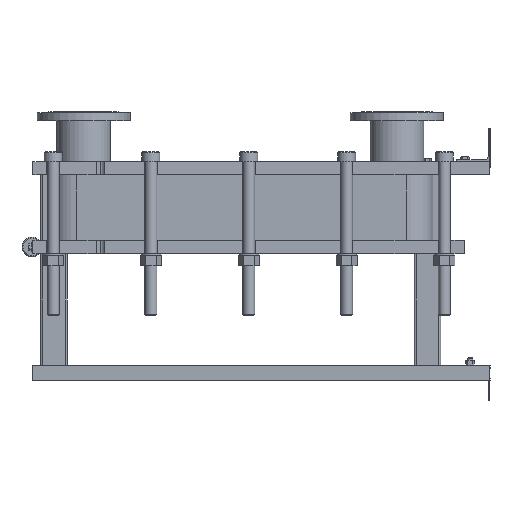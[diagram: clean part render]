
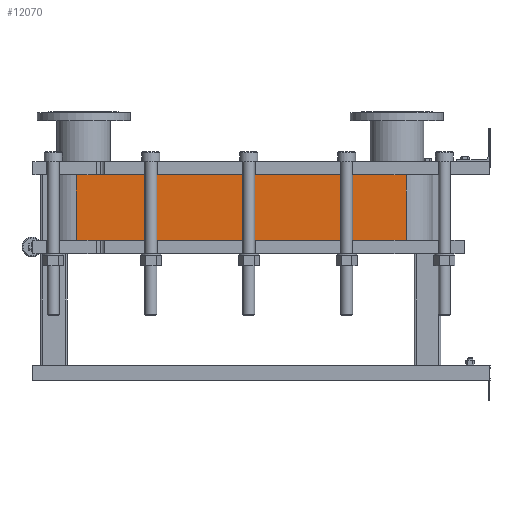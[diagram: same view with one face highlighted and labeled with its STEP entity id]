
A CAD part, left-side view. The second image highlights one B-rep face of the part: STEP entity #12070.
In plain terms, the highlighted planar face has unit normal (-1, 0, 0).
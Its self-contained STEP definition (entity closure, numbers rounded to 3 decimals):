
#1064=LINE('',#21140,#2164);
#1065=LINE('',#21144,#2165);
#1066=LINE('',#21146,#2166);
#1067=LINE('',#21147,#2167);
#2164=VECTOR('',#15790,10.);
#2165=VECTOR('',#15795,10.);
#2166=VECTOR('',#15796,10.);
#2167=VECTOR('',#15797,10.);
#3304=FACE_OUTER_BOUND('',#4091,.T.);
#4091=EDGE_LOOP('',(#9793,#9794,#9795,#9796));
#5677=VERTEX_POINT('',#21137);
#5678=VERTEX_POINT('',#21139);
#5679=VERTEX_POINT('',#21143);
#5680=VERTEX_POINT('',#21145);
#7118=EDGE_CURVE('',#5678,#5677,#1064,.T.);
#7120=EDGE_CURVE('',#5677,#5679,#1065,.T.);
#7121=EDGE_CURVE('',#5680,#5679,#1066,.T.);
#7122=EDGE_CURVE('',#5680,#5678,#1067,.T.);
#9793=ORIENTED_EDGE('',*,*,#7120,.T.);
#9794=ORIENTED_EDGE('',*,*,#7121,.F.);
#9795=ORIENTED_EDGE('',*,*,#7122,.T.);
#9796=ORIENTED_EDGE('',*,*,#7118,.T.);
#11441=PLANE('',#13191);
#12070=ADVANCED_FACE('',(#3304),#11441,.T.);
#13191=AXIS2_PLACEMENT_3D('',#21142,#15793,#15794);
#15790=DIRECTION('',(0.,0.,-1.));
#15793=DIRECTION('center_axis',(-1.,0.,0.));
#15794=DIRECTION('ref_axis',(0.,1.,0.));
#15795=DIRECTION('',(0.,-1.,0.));
#15796=DIRECTION('',(0.,0.,-1.));
#15797=DIRECTION('',(0.,1.,0.));
#21137=CARTESIAN_POINT('',(-248.152,1243.818,-196.65));
#21139=CARTESIAN_POINT('',(-248.152,1243.818,0.));
#21140=CARTESIAN_POINT('',(-248.152,1243.818,0.));
#21142=CARTESIAN_POINT('Origin',(-248.152,251.818,0.));
#21143=CARTESIAN_POINT('',(-248.152,251.818,-196.65));
#21144=CARTESIAN_POINT('',(-248.152,499.818,-196.65));
#21145=CARTESIAN_POINT('',(-248.152,251.818,0.));
#21146=CARTESIAN_POINT('',(-248.152,251.818,0.));
#21147=CARTESIAN_POINT('',(-248.152,251.818,0.));
